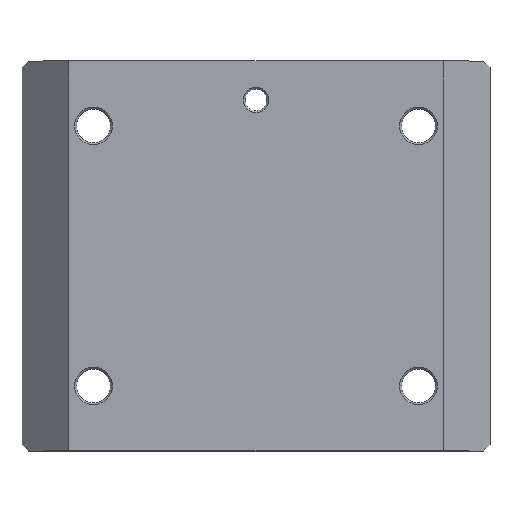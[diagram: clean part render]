
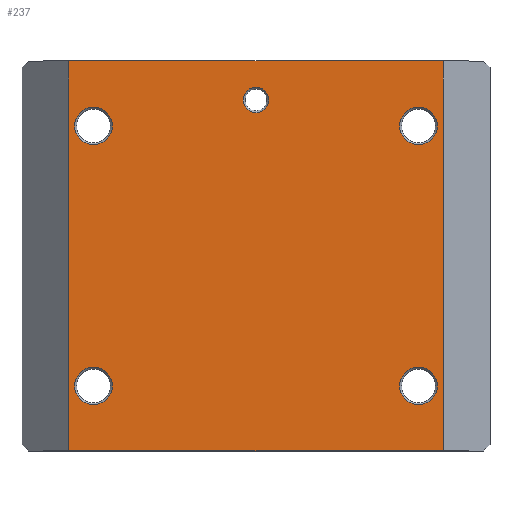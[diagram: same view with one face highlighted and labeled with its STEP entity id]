
A CAD part, top view. The second image highlights one B-rep face of the part: STEP entity #237.
In plain terms, the highlighted planar face has unit normal (0, 0, 1).
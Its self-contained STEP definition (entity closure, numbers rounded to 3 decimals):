
#10 = CARTESIAN_POINT ( 'NONE',  ( 24.925, 20., -50. ) ) ;
#28 = EDGE_CURVE ( 'NONE', #329, #309, #1183, .T. ) ;
#49 = EDGE_CURVE ( 'NONE', #438, #392, #1384, .T. ) ;
#78 = AXIS2_PLACEMENT_3D ( 'NONE', #10, #1221, #1235 ) ;
#141 = ORIENTED_EDGE ( 'NONE', *, *, #28, .T. ) ;
#147 = CARTESIAN_POINT ( 'NONE',  ( -27.975, 20., -50. ) ) ;
#162 = CARTESIAN_POINT ( 'NONE',  ( -28.875, -30., -50. ) ) ;
#174 = EDGE_CURVE ( 'NONE', #440, #411, #243, .T. ) ;
#189 = DIRECTION ( 'NONE',  ( 1., 0., 0. ) ) ;
#191 = ORIENTED_EDGE ( 'NONE', *, *, #293, .F. ) ;
#194 = EDGE_LOOP ( 'NONE', ( #1451, #630 ) ) ;
#197 = CARTESIAN_POINT ( 'NONE',  ( 10.05, 30., -50. ) ) ;
#205 = EDGE_LOOP ( 'NONE', ( #1023, #1299 ) ) ;
#212 = AXIS2_PLACEMENT_3D ( 'NONE', #948, #583, #1557 ) ;
#218 = VERTEX_POINT ( 'NONE', #1181 ) ;
#219 = EDGE_LOOP ( 'NONE', ( #1336, #191, #829, #1303 ) ) ;
#236 = DIRECTION ( 'NONE',  ( 0., -1., 0. ) ) ;
#237 = ADVANCED_FACE ( 'NONE', ( #443, #1054, #806, #693, #946, #452 ), #579, .F. ) ;
#239 = DIRECTION ( 'NONE',  ( 1., 0., 0. ) ) ;
#242 = CARTESIAN_POINT ( 'NONE',  ( 24.925, -20., -50. ) ) ;
#243 = CIRCLE ( 'NONE', #1416, 1.95 ) ;
#256 = ORIENTED_EDGE ( 'NONE', *, *, #739, .T. ) ;
#258 = CARTESIAN_POINT ( 'NONE',  ( 24.925, -20., -50. ) ) ;
#261 = EDGE_CURVE ( 'NONE', #834, #1367, #1163, .T. ) ;
#265 = DIRECTION ( 'NONE',  ( 0., 0., -1. ) ) ;
#271 = AXIS2_PLACEMENT_3D ( 'NONE', #478, #1573, #239 ) ;
#288 = LINE ( 'NONE', #1029, #902 ) ;
#293 = EDGE_CURVE ( 'NONE', #1435, #1376, #437, .T. ) ;
#308 = DIRECTION ( 'NONE',  ( 1., 0., 0. ) ) ;
#309 = VERTEX_POINT ( 'NONE', #367 ) ;
#317 = DIRECTION ( 'NONE',  ( 0., 0., -1. ) ) ;
#319 = CARTESIAN_POINT ( 'NONE',  ( -25.075, -20., -50. ) ) ;
#329 = VERTEX_POINT ( 'NONE', #613 ) ;
#330 = VECTOR ( 'NONE', #236, 1000. ) ;
#344 = DIRECTION ( 'NONE',  ( 0., 0., -1. ) ) ;
#352 = LINE ( 'NONE', #1313, #880 ) ;
#365 = CIRCLE ( 'NONE', #1587, 2.9 ) ;
#367 = CARTESIAN_POINT ( 'NONE',  ( -27.975, -20., -50. ) ) ;
#371 = DIRECTION ( 'NONE',  ( 0., 0., -1. ) ) ;
#392 = VERTEX_POINT ( 'NONE', #845 ) ;
#411 = VERTEX_POINT ( 'NONE', #1569 ) ;
#433 = DIRECTION ( 'NONE',  ( 0., 0., -1. ) ) ;
#437 = LINE ( 'NONE', #197, #1008 ) ;
#438 = VERTEX_POINT ( 'NONE', #147 ) ;
#440 = VERTEX_POINT ( 'NONE', #1254 ) ;
#443 = FACE_BOUND ( 'NONE', #1193, .T. ) ;
#452 = FACE_OUTER_BOUND ( 'NONE', #219, .T. ) ;
#478 = CARTESIAN_POINT ( 'NONE',  ( -25.075, 20., -50. ) ) ;
#489 = VERTEX_POINT ( 'NONE', #517 ) ;
#517 = CARTESIAN_POINT ( 'NONE',  ( 27.825, -20., -50. ) ) ;
#564 = CARTESIAN_POINT ( 'NONE',  ( 24.925, 20., -50. ) ) ;
#571 = DIRECTION ( 'NONE',  ( 0., 0., -1. ) ) ;
#579 = PLANE ( 'NONE',  #1402 ) ;
#583 = DIRECTION ( 'NONE',  ( 0., 0., -1. ) ) ;
#613 = CARTESIAN_POINT ( 'NONE',  ( -22.175, -20., -50. ) ) ;
#630 = ORIENTED_EDGE ( 'NONE', *, *, #1355, .T. ) ;
#662 = DIRECTION ( 'NONE',  ( 1., 0., 0. ) ) ;
#664 = DIRECTION ( 'NONE',  ( 0., 0., -1. ) ) ;
#685 = DIRECTION ( 'NONE',  ( 1., 0., 0. ) ) ;
#693 = FACE_BOUND ( 'NONE', #205, .T. ) ;
#719 = CARTESIAN_POINT ( 'NONE',  ( 22.025, 20., -50. ) ) ;
#737 = EDGE_CURVE ( 'NONE', #489, #919, #365, .T. ) ;
#739 = EDGE_CURVE ( 'NONE', #1367, #834, #1259, .T. ) ;
#744 = DIRECTION ( 'NONE',  ( 1., 0., 0. ) ) ;
#750 = AXIS2_PLACEMENT_3D ( 'NONE', #564, #344, #189 ) ;
#756 = CIRCLE ( 'NONE', #271, 2.9 ) ;
#757 = CARTESIAN_POINT ( 'NONE',  ( -0.075, 24., -50. ) ) ;
#762 = CARTESIAN_POINT ( 'NONE',  ( -28.875, 30., -50. ) ) ;
#770 = CARTESIAN_POINT ( 'NONE',  ( 22.025, -20., -50. ) ) ;
#806 = FACE_BOUND ( 'NONE', #1483, .T. ) ;
#816 = DIRECTION ( 'NONE',  ( 1., 0., 0. ) ) ;
#829 = ORIENTED_EDGE ( 'NONE', *, *, #1391, .F. ) ;
#834 = VERTEX_POINT ( 'NONE', #1283 ) ;
#845 = CARTESIAN_POINT ( 'NONE',  ( -22.175, 20., -50. ) ) ;
#867 = EDGE_CURVE ( 'NONE', #411, #440, #1249, .T. ) ;
#880 = VECTOR ( 'NONE', #1329, 1000. ) ;
#892 = VERTEX_POINT ( 'NONE', #162 ) ;
#902 = VECTOR ( 'NONE', #1263, 1000. ) ;
#906 = AXIS2_PLACEMENT_3D ( 'NONE', #242, #371, #1220 ) ;
#919 = VERTEX_POINT ( 'NONE', #770 ) ;
#931 = AXIS2_PLACEMENT_3D ( 'NONE', #319, #433, #662 ) ;
#946 = FACE_BOUND ( 'NONE', #1411, .T. ) ;
#948 = CARTESIAN_POINT ( 'NONE',  ( -25.075, 20., -50. ) ) ;
#1008 = VECTOR ( 'NONE', #685, 1000. ) ;
#1023 = ORIENTED_EDGE ( 'NONE', *, *, #1076, .T. ) ;
#1029 = CARTESIAN_POINT ( 'NONE',  ( 10.05, -30., -50. ) ) ;
#1039 = CIRCLE ( 'NONE', #931, 2.9 ) ;
#1054 = FACE_BOUND ( 'NONE', #194, .T. ) ;
#1057 = AXIS2_PLACEMENT_3D ( 'NONE', #1098, #1218, #1566 ) ;
#1065 = EDGE_CURVE ( 'NONE', #1376, #218, #1214, .T. ) ;
#1076 = EDGE_CURVE ( 'NONE', #919, #489, #1226, .T. ) ;
#1098 = CARTESIAN_POINT ( 'NONE',  ( -25.075, -20., -50. ) ) ;
#1139 = ORIENTED_EDGE ( 'NONE', *, *, #174, .T. ) ;
#1163 = CIRCLE ( 'NONE', #750, 2.9 ) ;
#1180 = EDGE_CURVE ( 'NONE', #309, #329, #1039, .T. ) ;
#1181 = CARTESIAN_POINT ( 'NONE',  ( 28.725, -30., -50. ) ) ;
#1183 = CIRCLE ( 'NONE', #1057, 2.9 ) ;
#1193 = EDGE_LOOP ( 'NONE', ( #1421, #141 ) ) ;
#1214 = LINE ( 'NONE', #1332, #330 ) ;
#1218 = DIRECTION ( 'NONE',  ( 0., 0., -1. ) ) ;
#1220 = DIRECTION ( 'NONE',  ( 1., 0., 0. ) ) ;
#1221 = DIRECTION ( 'NONE',  ( 0., 0., -1. ) ) ;
#1226 = CIRCLE ( 'NONE', #906, 2.9 ) ;
#1235 = DIRECTION ( 'NONE',  ( 1., 0., 0. ) ) ;
#1249 = CIRCLE ( 'NONE', #1455, 1.95 ) ;
#1254 = CARTESIAN_POINT ( 'NONE',  ( 1.875, 24., -50. ) ) ;
#1258 = ORIENTED_EDGE ( 'NONE', *, *, #261, .T. ) ;
#1259 = CIRCLE ( 'NONE', #78, 2.9 ) ;
#1263 = DIRECTION ( 'NONE',  ( -1., 0., 0. ) ) ;
#1267 = EDGE_CURVE ( 'NONE', #218, #892, #288, .T. ) ;
#1275 = ORIENTED_EDGE ( 'NONE', *, *, #867, .T. ) ;
#1283 = CARTESIAN_POINT ( 'NONE',  ( 27.825, 20., -50. ) ) ;
#1299 = ORIENTED_EDGE ( 'NONE', *, *, #737, .T. ) ;
#1303 = ORIENTED_EDGE ( 'NONE', *, *, #1267, .F. ) ;
#1313 = CARTESIAN_POINT ( 'NONE',  ( -28.875, -25., -50. ) ) ;
#1329 = DIRECTION ( 'NONE',  ( 0., 1., 0. ) ) ;
#1332 = CARTESIAN_POINT ( 'NONE',  ( 28.725, -25., -50. ) ) ;
#1336 = ORIENTED_EDGE ( 'NONE', *, *, #1065, .F. ) ;
#1355 = EDGE_CURVE ( 'NONE', #392, #438, #756, .T. ) ;
#1367 = VERTEX_POINT ( 'NONE', #719 ) ;
#1376 = VERTEX_POINT ( 'NONE', #1449 ) ;
#1384 = CIRCLE ( 'NONE', #212, 2.9 ) ;
#1391 = EDGE_CURVE ( 'NONE', #892, #1435, #352, .T. ) ;
#1402 = AXIS2_PLACEMENT_3D ( 'NONE', #1410, #571, #1546 ) ;
#1410 = CARTESIAN_POINT ( 'NONE',  ( 10.05, -25., -50. ) ) ;
#1411 = EDGE_LOOP ( 'NONE', ( #1275, #1139 ) ) ;
#1416 = AXIS2_PLACEMENT_3D ( 'NONE', #1420, #317, #816 ) ;
#1420 = CARTESIAN_POINT ( 'NONE',  ( -0.075, 24., -50. ) ) ;
#1421 = ORIENTED_EDGE ( 'NONE', *, *, #1180, .T. ) ;
#1435 = VERTEX_POINT ( 'NONE', #762 ) ;
#1449 = CARTESIAN_POINT ( 'NONE',  ( 28.725, 30., -50. ) ) ;
#1451 = ORIENTED_EDGE ( 'NONE', *, *, #49, .T. ) ;
#1455 = AXIS2_PLACEMENT_3D ( 'NONE', #757, #664, #308 ) ;
#1483 = EDGE_LOOP ( 'NONE', ( #256, #1258 ) ) ;
#1546 = DIRECTION ( 'NONE',  ( -1., 0., 0. ) ) ;
#1557 = DIRECTION ( 'NONE',  ( 1., 0., 0. ) ) ;
#1566 = DIRECTION ( 'NONE',  ( 1., 0., 0. ) ) ;
#1569 = CARTESIAN_POINT ( 'NONE',  ( -2.025, 24., -50. ) ) ;
#1573 = DIRECTION ( 'NONE',  ( 0., 0., -1. ) ) ;
#1587 = AXIS2_PLACEMENT_3D ( 'NONE', #258, #265, #744 ) ;
